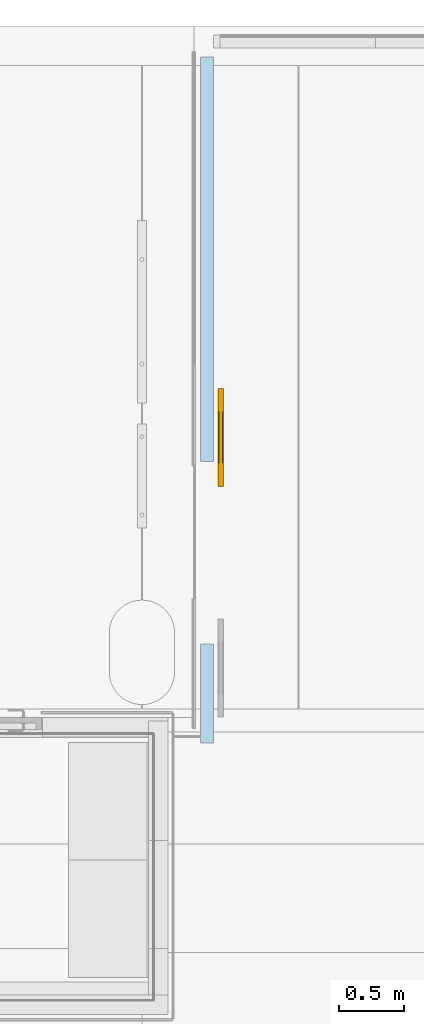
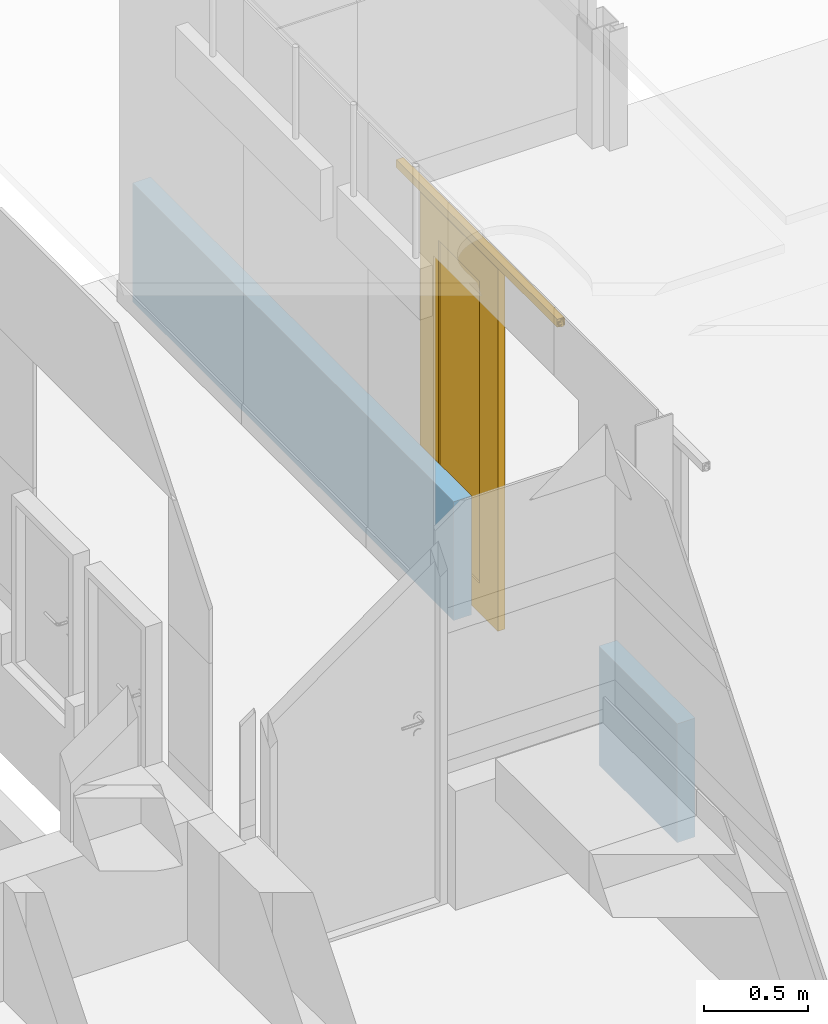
# One storey, part 21 of 26: 1 door, 2 openings, plus 1 element that does not belong to this part.
"""IFC2X3 building model written with IfcOpenShell, lengths in millimetres."""

from ifc_helpers import new_model, entity, si_unit, converted_unit, derived_unit, direction, frame, frame_2d, origin, origin_with_axes, place, context, subcontext, project, spatial, rectangle, extrude, clip, halfspace, faceted_brep, source, transform, mapped, material, material_list, layer, layer_set, layer_usage, type_object, element, fill, save


model = new_model("IFC2X3")

# Units and contexts
model_context = context("Model", 3, precision=0.01, world=frame((0.0, 4.29681676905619e-09, 0.0)), true_north=direction((4.01073788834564e-13, 1.0)))
plan_context = context("Plan", 3, precision=0.01, world=frame((0.0, 4.29681676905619e-09, 0.0)), true_north=direction((4.01073788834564e-13, 1.0)))
body_context = subcontext(model_context, "Body", "Model", "MODEL_VIEW")
ifc_project = project(units=[converted_unit("PLANEANGLEUNIT", "DEGREE", entity("IfcPositiveLengthMeasure", 0.0174532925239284), si_unit("PLANEANGLEUNIT", "RADIAN"), dimensions=[0, 0, 0, 0, 0, 0, 0]), si_unit("AREAUNIT", "SQUARE_METRE"), si_unit("LENGTHUNIT", "METRE", prefix="MILLI"), si_unit("MASSUNIT", "GRAM", prefix="KILO"), si_unit("POWERUNIT", "WATT"), si_unit("PRESSUREUNIT", "PASCAL", prefix="KILO"), si_unit("FORCEUNIT", "NEWTON", prefix="KILO"), si_unit("ELECTRICVOLTAGEUNIT", "VOLT"), si_unit("ELECTRICCURRENTUNIT", "AMPERE"), si_unit("THERMODYNAMICTEMPERATUREUNIT", "DEGREE_CELSIUS"), si_unit("TIMEUNIT", "SECOND"), si_unit("VOLUMEUNIT", "CUBIC_METRE"), derived_unit("LINEARVELOCITYUNIT", [(si_unit("LENGTHUNIT", "METRE"), 1), (si_unit("TIMEUNIT", "SECOND"), -1)]), derived_unit("VOLUMETRICFLOWRATEUNIT", [(si_unit("VOLUMEUNIT", "CUBIC_METRE"), 1), (si_unit("TIMEUNIT", "SECOND"), -1)]), derived_unit("THERMALTRANSMITTANCEUNIT", [(si_unit("POWERUNIT", "WATT"), 1), (si_unit("THERMODYNAMICTEMPERATUREUNIT", "KELVIN"), -1), (si_unit("AREAUNIT", "SQUARE_METRE"), -1)]), derived_unit("SOUNDPRESSUREUNIT", [(si_unit("PRESSUREUNIT", "PASCAL"), 1)])], contexts=[model_context, plan_context])

# Site, building, storey
site_placement = place(None, origin_with_axes())
site = spatial("IfcSite", under=ifc_project, at=site_placement, Name="ENGM", CompositionType="ELEMENT")
building_placement = place(site_placement, origin_with_axes())
building = spatial("IfcBuilding", under=site, at=building_placement, Name="TG", CompositionType="ELEMENT")
storey_placement = place(building_placement, frame((0.0, 0.0, 210200.0), z_axis=(0.0, 0.0, 1.0), x_axis=(1.0, 0.0, 0.0)))
storey = spatial("IfcBuildingStorey", under=building, at=storey_placement, Name="Nivå F - 0,7 m", CompositionType="ELEMENT", Elevation=210200.0)

# Wall, openings, door
ifc_material_1 = material(Name="Plate - Gips")
ifc_layer_1 = layer(ifc_material_1, 12.5)
ifc_material_2 = material(Name="_NSW Stålstender, uisolert")
ifc_layer_2 = layer(ifc_material_2, 75.0)
ifc_layer_3 = layer(ifc_material_1, 12.5)
ifc_layer_set = layer_set([ifc_layer_1, ifc_layer_2, ifc_layer_3], Name="Basic Wall:A241 - Eksisterende - GSVS-11")
ifc_layer_usage = layer_usage(ifc_layer_set, "AXIS2", "NEGATIVE", 50.0)
wall_type = type_object("IfcWallType", Name="Basic Wall:A241 - Eksisterende - GSVS-11", PredefinedType="STANDARD", material=ifc_layer_set)
wall_placement = place(storey_placement, frame((331498.69226286, 467260.742801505, 0.0), z_axis=(0.0, 0.0, 1.0), x_axis=(0.0, -1.0, 0.0)))
wall = element("IfcWallStandardCase", 1, at=wall_placement, inside=storey, type_object=wall_type, material=ifc_layer_usage, Name="Basic Wall:A241 - Eksisterende - GSVS-11", ObjectType="Basic Wall:A241 - Eksisterende - GSVS-11", context=body_context, shape_type="Clipping", body=[
    clip(extrude(rectangle(XDim=5253.86896894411, YDim=99.9999999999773, at=frame_2d((2626.93448447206, 3.46531692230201e-11), x_axis=(1.0, 0.0))), origin(), (0.0, 0.0, 1.0), 700.000000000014), halfspace(origin(), True)),
])
opening_1_placement = place(wall_placement, frame((4497.4017700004, 50.0, 0.0), z_axis=(0.0, 0.0, 1.0), x_axis=(1.0, 0.0, 0.0)))
element("IfcOpeningElement", 2, at=opening_1_placement, cuts=wall, Name="single_panel_sliding_door_whafele_hrdw_parametric_2015:single_panel_sliding_door_whafele_hrdw_parametric_7m:1", ObjectType="Opening", context=body_context, shape_type="SweptSolid", body=[
    extrude(rectangle(XDim=2133.6, YDim=699.999999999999, at=frame_2d((1066.8, 350.000000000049), x_axis=(1.0, 0.0))), frame((0.0, 0.0, 0.0), z_axis=(0.0, -1.0, 0.0), x_axis=(0.0, 0.0, 1.0)), (0.0, 0.0, 1.0), 100.0),
])
opening_2_placement = place(wall_placement, frame((3797.40177000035, 50.0, 0.0), z_axis=(0.0, 0.0, 1.0), x_axis=(1.0, 0.0, 0.0)))
opening_2 = element("IfcOpeningElement", 3, at=opening_2_placement, cuts=wall, Name="single_panel_sliding_door_whafele_hrdw_parametric_2015:single_panel_sliding_door_whafele_hrdw_parametric_7m:1", ObjectType="Opening", context=body_context, shape_type="SweptSolid", body=[
    extrude(rectangle(XDim=2133.6, YDim=699.999999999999, at=frame_2d((1066.8, 350.0), x_axis=(1.0, 0.0))), frame((0.0, 0.0, 0.0), z_axis=(0.0, -1.0, 0.0), x_axis=(0.0, 0.0, 1.0)), (0.0, 0.0, 1.0), 100.0),
])
ifc_material_3 = material(Name="Glass")
ifc_material_4 = material(Name="<Unnamed>")
ifc_material_list = material_list([ifc_material_3, ifc_material_4])
door_style = type_object("IfcDoorStyle", Name="single_panel_sliding_door_whafele_hrdw_parametric_2015:single_panel_sliding_door_whafele_hrdw_parametric_7m", ConstructionType="NOTDEFINED", OperationType="NOTDEFINED", ParameterTakesPrecedence=False, Sizeable=False, material=ifc_material_list)
shared_shape = source(origin(), body_context, "Body", "Brep", [
    faceted_brep([(1081.0, -43.1173299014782, 1962.15), (1081.0, -43.1173299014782, 184.149999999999), (685.800000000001, -43.1173299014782, 184.149999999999), (685.800000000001, -43.1173299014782, 1962.15), (1081.0, -68.5173299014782, 1962.15), (685.800000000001, -68.5173299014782, 1962.15), (685.800000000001, -68.5173299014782, 184.149999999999), (1081.0, -68.5173299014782, 184.149999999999)], [[[0, 1, 2, 3]], [[4, 5, 6, 7]], [[1, 0, 4, 7]], [[2, 1, 7, 6]], [[3, 2, 6, 5]], [[0, 3, 5, 4]]]),
    faceted_brep([(1258.8, -34.9312499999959, 2139.95), (1258.8, -34.9312499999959, 6.35000000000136), (508.0, -34.9312499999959, 6.35000000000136), (508.0, -34.9312499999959, 2139.95), (1081.0, -34.9312499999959, 1962.15), (685.8, -34.9312499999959, 1962.15), (685.8, -34.9312499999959, 184.149999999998), (1081.0, -34.9312499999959, 184.149999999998), (1258.8, -76.2062499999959, 2139.95), (508.0, -76.2062499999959, 2139.95), (508.0, -76.2062499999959, 6.35000000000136), (1258.8, -76.2062499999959, 6.35000000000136), (1081.0, -76.2062499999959, 1962.15), (1081.0, -76.2062499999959, 184.149999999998), (685.8, -76.2062499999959, 184.149999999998), (685.8, -76.2062499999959, 1962.15), (514.35, -44.4562499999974, 6.35000000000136), (514.35, -66.6812499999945, 6.35000000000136), (1252.45, -66.6812499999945, 6.35000000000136), (1252.45, -44.4562499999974, 6.35000000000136), (514.35, -44.4562499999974, 19.050000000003), (514.35, -66.6812499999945, 19.050000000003), (1252.45, -44.4562499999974, 19.050000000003), (1252.45, -66.6812499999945, 19.050000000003)], [[[0, 1, 2, 3], [4, 5, 6, 7]], [[8, 9, 10, 11], [12, 13, 14, 15]], [[1, 0, 8, 11]], [[2, 1, 11, 10], [16, 17, 18, 19]], [[3, 2, 10, 9]], [[0, 3, 9, 8]], [[5, 4, 12, 15]], [[6, 5, 15, 14]], [[7, 6, 14, 13]], [[4, 7, 13, 12]], [[20, 21, 17, 16]], [[22, 19, 18, 23]], [[20, 16, 19, 22]], [[17, 21, 23, 18]], [[21, 20, 22, 23]]]),
    faceted_brep([(750.799999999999, -39.0002848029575, 3.96875), (750.799999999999, -50.9065348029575, 3.96875000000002), (750.799999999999, -50.9065348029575, 23.8125), (750.799999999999, -60.8284098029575, 23.8125), (750.799999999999, -60.8284098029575, 3.96875000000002), (750.799999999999, -72.7346598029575, 3.96875), (750.799999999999, -72.7346598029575, 0.0), (750.799999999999, -39.0002848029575, 0.0), (700.0, -39.0002848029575, 3.96875), (700.0, -39.0002848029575, 0.0), (700.0, -72.7346598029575, 0.0), (700.0, -72.7346598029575, 3.96875), (700.0, -60.8284098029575, 3.96875000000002), (700.0, -60.8284098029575, 23.8125), (700.0, -50.9065348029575, 23.8125), (700.0, -50.9065348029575, 3.96875000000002)], [[[0, 1, 2, 3, 4, 5, 6, 7]], [[8, 9, 10, 11, 12, 13, 14, 15]], [[1, 0, 8, 15]], [[2, 1, 15, 14]], [[3, 2, 14, 13]], [[4, 3, 13, 12]], [[5, 4, 12, 11]], [[6, 5, 11, 10]], [[7, 6, 10, 9]], [[0, 7, 9, 8]]]),
    faceted_brep([(-76.2000000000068, -51.446613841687, 2188.11702237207), (-76.2000000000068, -39.4134133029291, 2188.11702237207), (-76.2000000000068, -39.4134133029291, 2151.56342927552), (-76.2000000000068, -48.0436033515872, 2151.56342927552), (-76.2000000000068, -48.0436033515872, 2153.68744383), (-76.2000000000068, -43.5123723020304, 2153.68744383), (-76.2000000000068, -43.5123723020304, 2156.51946323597), (-76.2000000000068, -41.9547616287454, 2156.51946323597), (-76.2000000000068, -41.9547616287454, 2185.70191237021), (-76.2000000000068, -51.446613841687, 2185.70191237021), (1476.19999999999, -51.446613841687, 2188.11702237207), (1476.19999999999, -51.446613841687, 2185.70191237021), (1476.19999999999, -41.9547616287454, 2185.70191237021), (1476.19999999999, -41.9547616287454, 2156.51946323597), (1476.19999999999, -43.5123723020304, 2156.51946323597), (1476.19999999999, -43.5123723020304, 2153.68744383), (1476.19999999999, -48.0436033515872, 2153.68744383), (1476.19999999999, -48.0436033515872, 2151.56342927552), (1476.19999999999, -39.4134133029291, 2151.56342927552), (1476.19999999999, -39.4134133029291, 2188.11702237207)], [[[0, 1, 2, 3, 4, 5, 6, 7, 8, 9]], [[10, 11, 12, 13, 14, 15, 16, 17, 18, 19]], [[1, 0, 10, 19]], [[2, 1, 19, 18]], [[3, 2, 18, 17]], [[4, 3, 17, 16]], [[5, 4, 16, 15]], [[6, 5, 15, 14]], [[7, 6, 14, 13]], [[8, 7, 13, 12]], [[9, 8, 12, 11]], [[0, 9, 11, 10]]]),
    faceted_brep([(-76.2000000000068, -60.2666601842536, 2185.70191237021), (-76.2000000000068, -60.2666601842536, 2188.11702237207), (1476.19999999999, -60.2666601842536, 2188.11702237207), (1476.19999999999, -60.2666601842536, 2185.70191237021), (-76.2000000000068, -69.8183154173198, 2185.70191237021), (1476.19999999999, -69.8183154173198, 2185.70191237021), (-76.2000000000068, -69.8183154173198, 2156.51946323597), (1476.19999999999, -69.8183154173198, 2156.51946323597), (-76.2000000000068, -68.2607047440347, 2156.51946323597), (1476.19999999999, -68.2607047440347, 2156.51946323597), (-76.2000000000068, -68.2607047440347, 2153.68744383), (1476.19999999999, -68.2607047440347, 2153.68744383), (-76.2000000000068, -63.7294736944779, 2153.68744383), (1476.19999999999, -63.7294736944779, 2153.68744383), (-76.2000000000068, -63.7294736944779, 2151.56342927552), (1476.19999999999, -63.7294736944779, 2151.56342927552), (-76.2000000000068, -72.3596637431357, 2151.56342927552), (1476.19999999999, -72.3596637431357, 2151.56342927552), (-76.2000000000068, -72.3596637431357, 2188.11702237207), (1476.19999999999, -72.3596637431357, 2188.11702237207)], [[[0, 1, 2, 3]], [[4, 0, 3, 5]], [[6, 4, 5, 7]], [[8, 6, 7, 9]], [[10, 8, 9, 11]], [[12, 10, 11, 13]], [[14, 12, 13, 15]], [[16, 14, 15, 17]], [[18, 16, 17, 19]], [[1, 18, 19, 2]], [[2, 19, 17, 15, 13, 11, 9, 7, 5, 3]], [[1, 0, 4, 6, 8, 10, 12, 14, 16, 18]]]),
    faceted_brep([(-76.2000000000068, -43.5123723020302, 2163.31953079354), (-76.2000000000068, -43.5123723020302, 2152.84170731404), (-76.2000000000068, -48.043603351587, 2152.84170731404), (-76.2000000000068, -48.043603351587, 2163.31953079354), (-76.2000000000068, -63.7892767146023, 2163.31953079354), (-76.2000000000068, -63.7892767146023, 2170.61541673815), (-76.2000000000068, -68.320507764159, 2170.61541673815), (-76.2000000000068, -68.320507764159, 2163.31953079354), (-76.2000000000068, -69.878118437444, 2163.31953079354), (-76.2000000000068, -69.878118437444, 2176.01953079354), (-76.2000000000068, -68.320507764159, 2176.01953079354), (-76.2000000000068, -68.320507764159, 2184.85617585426), (-76.2000000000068, -63.6897324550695, 2184.85617585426), (-76.2000000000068, -63.6897324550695, 2176.01953079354), (-76.2000000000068, -48.1431476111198, 2176.01953079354), (-76.2000000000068, -48.1431476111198, 2184.85617585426), (-76.2000000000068, -43.5123723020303, 2184.85617585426), (-76.2000000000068, -43.5123723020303, 2176.01953079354), (-76.2000000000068, -41.9547616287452, 2176.01953079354), (-76.2000000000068, -41.9547616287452, 2163.31953079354), (1476.19999999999, -43.5123723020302, 2163.31953079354), (1476.19999999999, -41.9547616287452, 2163.31953079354), (1476.19999999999, -41.9547616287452, 2176.01953079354), (1476.19999999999, -43.5123723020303, 2176.01953079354), (1476.19999999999, -43.5123723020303, 2184.85617585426), (1476.19999999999, -48.1431476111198, 2184.85617585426), (1476.19999999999, -48.1431476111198, 2176.01953079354), (1476.19999999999, -63.6897324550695, 2176.01953079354), (1476.19999999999, -63.6897324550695, 2184.85617585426), (1476.19999999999, -68.320507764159, 2184.85617585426), (1476.19999999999, -68.320507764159, 2176.01953079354), (1476.19999999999, -69.878118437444, 2176.01953079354), (1476.19999999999, -69.878118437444, 2163.31953079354), (1476.19999999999, -68.320507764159, 2163.31953079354), (1476.19999999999, -68.320507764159, 2170.61541673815), (1476.19999999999, -63.7892767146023, 2170.61541673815), (1476.19999999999, -63.7892767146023, 2163.31953079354), (1476.19999999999, -48.043603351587, 2163.31953079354), (1476.19999999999, -48.043603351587, 2152.84170731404), (1476.19999999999, -43.5123723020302, 2152.84170731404)], [[[0, 1, 2, 3, 4, 5, 6, 7, 8, 9, 10, 11, 12, 13, 14, 15, 16, 17, 18, 19]], [[20, 21, 22, 23, 24, 25, 26, 27, 28, 29, 30, 31, 32, 33, 34, 35, 36, 37, 38, 39]], [[1, 0, 20, 39]], [[2, 1, 39, 38]], [[3, 2, 38, 37]], [[4, 3, 37, 36]], [[5, 4, 36, 35]], [[6, 5, 35, 34]], [[7, 6, 34, 33]], [[8, 7, 33, 32]], [[9, 8, 32, 31]], [[10, 9, 31, 30]], [[11, 10, 30, 29]], [[12, 11, 29, 28]], [[13, 12, 28, 27]], [[14, 13, 27, 26]], [[15, 14, 26, 25]], [[16, 15, 25, 24]], [[17, 16, 24, 23]], [[18, 17, 23, 22]], [[19, 18, 22, 21]], [[0, 19, 21, 20]]]),
    faceted_brep([(-76.2000000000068, -48.9057992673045, 2162.35292818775), (-76.2000000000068, -62.7288605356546, 2162.35292818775), (1476.19999999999, -62.7288605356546, 2162.35292818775), (1476.19999999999, -48.9057992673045, 2162.35292818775), (-76.2000000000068, -48.9057992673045, 2147.30384601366), (1476.19999999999, -48.9057992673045, 2147.30384601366), (-76.2000000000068, -62.7288605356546, 2147.30384601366), (1476.19999999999, -62.7288605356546, 2147.30384601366)], [[[0, 1, 2, 3]], [[4, 0, 3, 5]], [[6, 4, 5, 7]], [[1, 6, 7, 2]], [[2, 7, 5, 3]], [[1, 0, 4, 6]]]),
    faceted_brep([(-76.2000000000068, -28.3065387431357, 2199.64030115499), (-76.2000000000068, -28.3065387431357, 2152.80905115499), (-76.2000000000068, -39.4190387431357, 2152.80905115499), (-76.2000000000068, -39.4190387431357, 2155.9609868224), (-76.2000000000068, -35.037729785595, 2155.9609868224), (-76.2000000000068, -35.037729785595, 2163.29696030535), (-76.2000000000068, -33.069038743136, 2165.26565134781), (-76.2000000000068, -33.069038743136, 2184.31565134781), (-76.2000000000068, -39.4190387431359, 2184.31565134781), (-76.2000000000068, -39.4190387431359, 2188.52780115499), (-76.2000000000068, -49.5392457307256, 2188.52780115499), (-76.2000000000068, -49.5392457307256, 2191.65853498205), (-76.2000000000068, -46.3914400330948, 2191.65853498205), (-76.2000000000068, -46.3914400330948, 2194.87201231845), (-76.2000000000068, -65.4414400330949, 2194.87201231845), (-76.2000000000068, -65.4414400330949, 2191.65853498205), (-76.2000000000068, -62.2936343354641, 2191.65853498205), (-76.2000000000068, -62.2936343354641, 2188.52780115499), (-76.2000000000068, -72.3596637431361, 2188.52780115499), (-76.2000000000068, -69.3820783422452, 2199.64030115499), (1476.19999999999, -28.3065387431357, 2199.64030115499), (1476.19999999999, -69.3820783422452, 2199.64030115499), (1476.19999999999, -72.3596637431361, 2188.52780115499), (1476.19999999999, -62.2936343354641, 2188.52780115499), (1476.19999999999, -62.2936343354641, 2191.65853498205), (1476.19999999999, -65.4414400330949, 2191.65853498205), (1476.19999999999, -65.4414400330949, 2194.87201231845), (1476.19999999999, -46.3914400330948, 2194.87201231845), (1476.19999999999, -46.3914400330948, 2191.65853498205), (1476.19999999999, -49.5392457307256, 2191.65853498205), (1476.19999999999, -49.5392457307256, 2188.52780115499), (1476.19999999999, -39.4190387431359, 2188.52780115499), (1476.19999999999, -39.4190387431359, 2184.31565134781), (1476.19999999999, -33.069038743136, 2184.31565134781), (1476.19999999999, -33.069038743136, 2165.26565134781), (1476.19999999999, -35.037729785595, 2163.29696030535), (1476.19999999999, -35.037729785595, 2155.9609868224), (1476.19999999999, -39.4190387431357, 2155.9609868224), (1476.19999999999, -39.4190387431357, 2152.80905115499), (1476.19999999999, -28.3065387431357, 2152.80905115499)], [[[0, 1, 2, 3, 4, 5, 6, 7, 8, 9, 10, 11, 12, 13, 14, 15, 16, 17, 18, 19]], [[20, 21, 22, 23, 24, 25, 26, 27, 28, 29, 30, 31, 32, 33, 34, 35, 36, 37, 38, 39]], [[1, 0, 20, 39]], [[2, 1, 39, 38]], [[3, 2, 38, 37]], [[4, 3, 37, 36]], [[5, 4, 36, 35]], [[6, 5, 35, 34]], [[7, 6, 34, 33]], [[8, 7, 33, 32]], [[9, 8, 32, 31]], [[10, 9, 31, 30]], [[11, 10, 30, 29]], [[12, 11, 29, 28]], [[13, 12, 28, 27]], [[14, 13, 27, 26]], [[15, 14, 26, 25]], [[16, 15, 25, 24]], [[17, 16, 24, 23]], [[18, 17, 23, 22]], [[19, 18, 22, 21]], [[0, 19, 21, 20]]]),
])
door_placement = place(opening_2_placement, frame((0.0, 0.0, 0.0), z_axis=(0.0, 0.0, 1.0), x_axis=(-1.0, 0.0, 0.0)))
door = element("IfcDoor", 4, at=door_placement, inside=storey, type_object=door_style, material=ifc_material_list, Name="single_panel_sliding_door_whafele_hrdw_parametric_2015:single_panel_sliding_door_whafele_hrdw_parametric_7m", ObjectType="single_panel_sliding_door_whafele_hrdw_parametric_2015:single_panel_sliding_door_whafele_hrdw_parametric_7m", OverallHeight=2133.6, OverallWidth=700.000000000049, context=body_context, shape_type="MappedRepresentation", body=[
    mapped(shared_shape, transform((0.0, 0.0, 0.0), scale=1.0)),
])
fill(opening_2, door)

save(model, "model.ifc")
